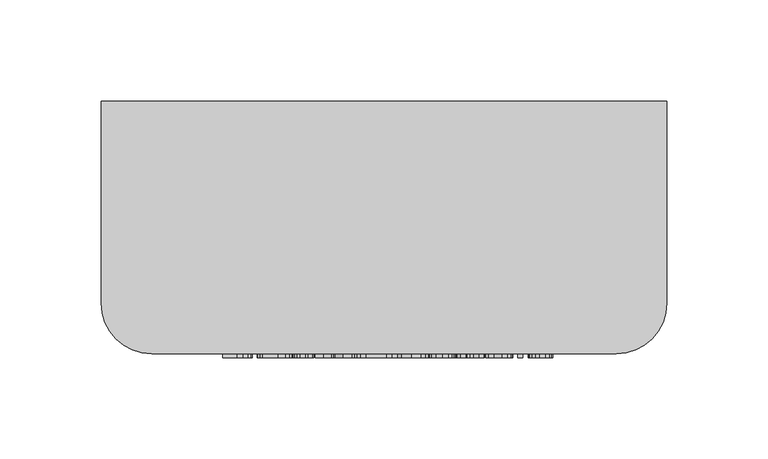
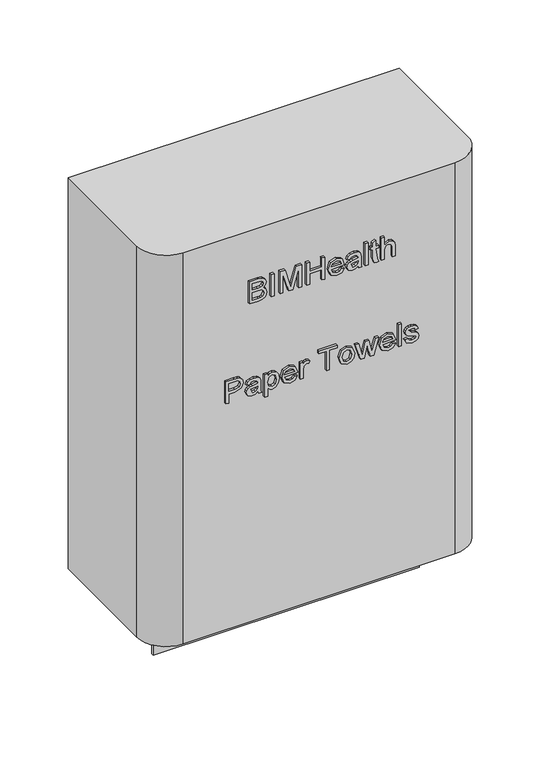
"""IFC4 building model written with IfcOpenShell, lengths in millimetres: furniture geometry, BIMHealth-Paper_Towel_Dispenser-LOD2A-v1 : BIMHealth-Paper_Towel_Dispenser-LOD2A-v1."""

from ifc_helpers import new_model, si_unit, frame, origin, place, context, project, spatial, polyline, circle_curve, outline, extrude, source, transform, mapped, element, save
from ifc_brep_helpers import plane_surface, cylinder_surface, revolved_surface, advanced_brep


def furniture_166ce8d1(model_context):
    return source(origin(), model_context, "Body", "SolidModel", [
        extrude(outline(polyline([(1486.0993641, 80.0917119), (1486.0993641, 87.5484427), (1486.4383065, 90.7046927), (1487.4383065, 92.8465196), (1489.3229218, 94.2816158), (1491.9695565, 94.8609427), (1495.0320565, 94.012385), (1496.8685949, 91.5869042), (1498.6113834, 93.5845004), (1500.9118641, 94.2455581), (1503.4310949, 93.4595004), (1505.2123449, 91.2864234), (1505.7916718, 87.606135), (1505.7916718, 80.0917119), (1486.0993641, 80.0917119)]), holes=[polyline([(1497.7916718, 82.5532504), (1503.3301334, 82.5532504), (1503.3301334, 86.7070965), (1503.0729218, 89.8705581), (1502.1234026, 91.2888273), (1500.5176334, 91.7840196), (1498.914268, 91.2527696), (1498.0032103, 89.6734427), (1497.7916718, 87.0484427), (1497.7916718, 82.5532504)]), polyline([(1488.5609026, 82.5532504), (1495.3301334, 82.5532504), (1495.3301334, 87.3609427), (1495.0008065, 90.4018081), (1493.8589795, 91.9282504), (1491.945518, 92.3994042), (1489.1931141, 90.9739234), (1488.6570565, 89.4282504), (1488.5609026, 87.6013273), (1488.5609026, 82.5532504)])]), frame((0.0, -127.0, 0.0), z_axis=(0.0, 1.0, 0.0), x_axis=(0.0, 0.0, 1.0)), (0.0, 0.0, 1.0), 2.0),
        extrude(outline(polyline([(101.0147888, -127.0), (98.5532504, -127.0), (98.5532504, -125.0), (101.0147888, -125.0), (101.0147888, -127.0)])), frame((0.0, 0.0, 1486.0993641), z_axis=(0.0, 0.0, 1.0), x_axis=(1.0, 0.0, 0.0)), (0.0, 0.0, 1.0), 19.6923077),
        extrude(outline(polyline([(1486.0993641, 105.9378658), (1486.0993641, 108.3994042), (1503.3301334, 108.3994042), (1486.0993641, 113.3513273), (1486.0993641, 116.6830581), (1503.3301334, 121.6301734), (1486.0993641, 121.6301734), (1486.0993641, 124.0917119), (1505.7916718, 124.0917119), (1505.7916718, 119.856135), (1492.1522488, 115.8945965), (1489.0128257, 115.0147888), (1491.9118641, 114.1974811), (1505.7916718, 110.1590196), (1505.7916718, 105.9378658), (1486.0993641, 105.9378658)])), frame((0.0, -127.0, 0.0), z_axis=(0.0, 1.0, 0.0), x_axis=(0.0, 0.0, 1.0)), (0.0, 0.0, 1.0), 2.0),
        extrude(outline(polyline([(1486.0993641, 128.3994042), (1486.0993641, 130.8609427), (1495.3301334, 130.8609427), (1495.3301334, 141.3224811), (1486.0993641, 141.3224811), (1486.0993641, 143.7840196), (1505.7916718, 143.7840196), (1505.7916718, 141.3224811), (1497.7916718, 141.3224811), (1497.7916718, 130.8609427), (1505.7916718, 130.8609427), (1505.7916718, 128.3994042), (1486.0993641, 128.3994042)])), frame((0.0, -127.0, 0.0), z_axis=(0.0, 1.0, 0.0), x_axis=(0.0, 0.0, 1.0)), (0.0, 0.0, 1.0), 2.0),
        extrude(outline(polyline([(1490.4070565, 157.9090196), (1488.7676334, 156.3224811), (1488.2532103, 153.9090196), (1489.3637872, 150.7383465), (1492.5609026, 149.3224811), (1493.2243641, 160.3994042), (1498.8637872, 158.5316158), (1500.8685949, 153.7215196), (1498.8589795, 148.7695965), (1493.2099411, 146.8609427), (1487.7411911, 148.7503658), (1485.7916718, 153.8609427), (1486.9214795, 158.0652696), (1490.0993641, 160.3224811), (1490.4070565, 157.9090196)]), holes=[polyline([(1495.0224411, 149.3224811), (1497.4863834, 150.6806542), (1498.4070565, 153.7119042), (1497.2532103, 156.9522888), (1495.0224411, 157.9378658), (1495.0224411, 149.3224811)])]), frame((0.0, -127.0, 0.0), z_axis=(0.0, 1.0, 0.0), x_axis=(0.0, 0.0, 1.0)), (0.0, 0.0, 1.0), 2.0),
        extrude(outline(polyline([(1487.945518, 172.0917119), (1486.0993641, 172.7070965), (1486.0993641, 175.168635), (1488.1690757, 174.6782504), (1492.445518, 174.5532504), (1495.508018, 174.5532504), (1497.6618641, 174.4330581), (1499.3325372, 173.6782504), (1500.4310949, 171.9931542), (1500.8685949, 169.0099811), (1500.3734026, 165.762385), (1498.9647488, 163.6181542), (1496.5609026, 162.5532504), (1496.2532103, 165.0147888), (1497.9334988, 166.2022888), (1498.4070565, 168.6926734), (1497.695518, 171.4138273), (1495.3301334, 172.0772888), (1494.4839795, 167.8080581), (1494.1137872, 165.6782504), (1493.3060949, 163.9546927), (1491.8926334, 162.7167119), (1489.945518, 162.2455581), (1486.9599411, 163.4931542), (1485.7916718, 167.0676734), (1486.2772488, 169.7046927), (1487.945518, 172.0917119)]), holes=[polyline([(1492.5200372, 172.0845004), (1490.2676334, 171.6878658), (1488.8421526, 170.0820965), (1488.2532103, 167.5917119), (1491.7147488, 166.0027696), (1492.1137872, 168.1205581), (1492.5200372, 172.0845004)])]), frame((0.0, -127.0, 0.0), z_axis=(0.0, 1.0, 0.0), x_axis=(0.0, 0.0, 1.0)), (0.0, 0.0, 1.0), 2.0),
        extrude(outline(polyline([(180.3994042, -127.0), (177.9378658, -127.0), (177.9378658, -125.0), (180.3994042, -125.0), (180.3994042, -127.0)])), frame((0.0, 0.0, 1486.0993641), z_axis=(0.0, 0.0, 1.0), x_axis=(1.0, 0.0, 0.0)), (0.0, 0.0, 1.0), 19.6923077),
        extrude(outline(polyline([(1489.1450372, 188.0917119), (1498.0993641, 186.8609427), (1498.0993641, 189.3224811), (1500.5609026, 189.3224811), (1500.5609026, 186.8609427), (1505.5224411, 186.8609427), (1504.0753257, 184.3994042), (1500.5609026, 184.3994042), (1500.5609026, 182.5532504), (1498.0993641, 182.5532504), (1498.0993641, 184.3994042), (1490.0657103, 184.3994042), (1486.2003257, 185.7263273), (1485.7916718, 187.7888273), (1486.0272488, 189.6301734), (1489.1450372, 188.0917119)])), frame((0.0, -127.0, 0.0), z_axis=(0.0, 1.0, 0.0), x_axis=(0.0, 0.0, 1.0)), (0.0, 0.0, 1.0), 2.0),
        extrude(outline(polyline([(1486.0993641, 191.7840196), (1486.0993641, 194.2455581), (1493.7820565, 194.2455581), (1496.3734026, 194.6470004), (1497.8589795, 195.9931542), (1498.4070565, 198.0099811), (1497.5945565, 200.231135), (1494.9984026, 201.0147888), (1486.0993641, 201.0147888), (1486.0993641, 203.4763273), (1495.2532103, 203.4763273), (1498.4887872, 202.9715196), (1500.2363834, 201.293635), (1500.8685949, 198.5292119), (1498.5512872, 194.2455581), (1505.7916718, 194.2455581), (1505.7916718, 191.7840196), (1486.0993641, 191.7840196)])), frame((0.0, -127.0, 0.0), z_axis=(0.0, 1.0, 0.0), x_axis=(0.0, 0.0, 1.0)), (0.0, 0.0, 1.0), 2.0),
        extrude(outline(polyline([(1403.5993641, 60.0917119), (1403.5993641, 62.5532504), (1411.5993641, 62.5532504), (1411.5993641, 67.5580581), (1413.3397488, 73.2768081), (1417.5945565, 74.8609427), (1420.2796526, 74.2744042), (1422.1834988, 72.7239234), (1423.1041718, 70.3320965), (1423.2916718, 67.3897888), (1423.2916718, 60.0917119), (1403.5993641, 60.0917119)]), holes=[polyline([(1414.0609026, 62.5532504), (1420.8301334, 62.5532504), (1420.8301334, 67.6445965), (1420.6618641, 70.106135), (1419.5464795, 71.7671927), (1417.508018, 72.3994042), (1414.9647488, 71.3272888), (1414.0609026, 67.7022888), (1414.0609026, 62.5532504)])]), frame((0.0, -127.0, 0.0), z_axis=(0.0, 1.0, 0.0), x_axis=(0.0, 0.0, 1.0)), (0.0, 0.0, 1.0), 2.0),
        extrude(outline(polyline([(1405.445518, 87.168635), (1403.5993641, 87.7840196), (1403.5993641, 90.2455581), (1405.6690757, 89.7551734), (1409.945518, 89.6301734), (1413.008018, 89.6301734), (1415.1618641, 89.5099811), (1416.8325372, 88.7551734), (1417.9310949, 87.0700773), (1418.3685949, 84.0869042), (1417.8734026, 80.8393081), (1416.4647488, 78.6950773), (1414.0609026, 77.6301734), (1413.7532103, 80.0917119), (1415.4334988, 81.2792119), (1415.9070565, 83.7695965), (1415.195518, 86.4907504), (1412.8301334, 87.1542119), (1411.9839795, 82.8849811), (1411.6137872, 80.7551734), (1410.8060949, 79.0316158), (1409.3926334, 77.793635), (1407.445518, 77.3224811), (1404.4599411, 78.5700773), (1403.2916718, 82.1445965), (1403.7772488, 84.7816158), (1405.445518, 87.168635)]), holes=[polyline([(1410.0200372, 87.1614234), (1407.7676334, 86.7647888), (1406.3421526, 85.1590196), (1405.7532103, 82.668635), (1409.2147488, 81.0796927), (1409.6137872, 83.1974811), (1410.0200372, 87.1614234)])]), frame((0.0, -127.0, 0.0), z_axis=(0.0, 1.0, 0.0), x_axis=(0.0, 0.0, 1.0)), (0.0, 0.0, 1.0), 2.0),
        extrude(outline(polyline([(1398.0609026, 93.0147888), (1398.0609026, 95.4763273), (1405.5224411, 95.4763273), (1403.9238834, 97.0364234), (1403.2916718, 99.1782504), (1404.2363834, 102.2912311), (1406.9527295, 104.5460388), (1410.9407103, 105.3224811), (1414.7339795, 104.6349811), (1417.4166718, 102.5965196), (1418.3685949, 99.4763273), (1417.6883065, 97.1782504), (1415.6474411, 95.4763273), (1418.0609026, 95.4763273), (1418.0609026, 93.0147888), (1398.0609026, 93.0147888)]), holes=[polyline([(1410.7147488, 95.4763273), (1414.5777295, 96.6133465), (1415.9070565, 99.2263273), (1414.6570565, 101.7888273), (1410.8974411, 102.8609427), (1407.008018, 101.762385), (1405.7532103, 99.1253658), (1406.9647488, 96.5412311), (1410.7147488, 95.4763273)])]), frame((0.0, -127.0, 0.0), z_axis=(0.0, 1.0, 0.0), x_axis=(0.0, 0.0, 1.0)), (0.0, 0.0, 1.0), 2.0),
        extrude(outline(polyline([(1407.9070565, 118.2167119), (1406.2676334, 116.6301734), (1405.7532103, 114.2167119), (1406.8637872, 111.0460388), (1410.0609026, 109.6301734), (1410.7243641, 120.7070965), (1416.3637872, 118.8393081), (1418.3685949, 114.0292119), (1416.3589795, 109.0772888), (1410.7099411, 107.168635), (1405.2411911, 109.0580581), (1403.2916718, 114.168635), (1404.4214795, 118.3729619), (1407.5993641, 120.6301734), (1407.9070565, 118.2167119)]), holes=[polyline([(1412.5224411, 109.6301734), (1414.9863834, 110.9883465), (1415.9070565, 114.0195965), (1414.7532103, 117.2599811), (1412.5224411, 118.2455581), (1412.5224411, 109.6301734)])]), frame((0.0, -127.0, 0.0), z_axis=(0.0, 1.0, 0.0), x_axis=(0.0, 0.0, 1.0)), (0.0, 0.0, 1.0), 2.0),
        extrude(outline(polyline([(1403.5993641, 123.168635), (1403.5993641, 125.6301734), (1411.2003257, 125.6301734), (1414.0753257, 126.0292119), (1415.9070565, 128.3080581), (1415.4022488, 130.0388273), (1417.6089795, 130.8609427), (1418.3685949, 128.3897888), (1417.8926334, 126.8513273), (1415.9214795, 125.3224811), (1418.0609026, 125.3224811), (1418.0609026, 123.168635), (1403.5993641, 123.168635)])), frame((0.0, -127.0, 0.0), z_axis=(0.0, 1.0, 0.0), x_axis=(0.0, 0.0, 1.0)), (0.0, 0.0, 1.0), 2.0),
        extrude(outline(polyline([(1403.5993641, 145.3224811), (1403.5993641, 147.7840196), (1420.8301334, 147.7840196), (1420.8301334, 154.2455581), (1423.2916718, 154.2455581), (1423.2916718, 138.8609427), (1420.8301334, 138.8609427), (1420.8301334, 145.3224811), (1403.5993641, 145.3224811)])), frame((0.0, -127.0, 0.0), z_axis=(0.0, 1.0, 0.0), x_axis=(0.0, 0.0, 1.0)), (0.0, 0.0, 1.0), 2.0),
        extrude(outline(polyline([(1410.8301334, 156.0917119), (1405.2339795, 157.8777696), (1403.2916718, 162.5580581), (1404.1738834, 165.8921927), (1406.6522488, 168.2167119), (1411.0320565, 169.0147888), (1416.4190757, 167.2095004), (1418.3685949, 162.5580581), (1416.7676334, 158.2215196), (1410.8301334, 156.0917119)]), holes=[polyline([(1410.8349411, 158.5532504), (1414.6450372, 159.6926734), (1415.9070565, 162.5580581), (1414.6402295, 165.4066158), (1410.9118641, 166.5532504), (1407.0272488, 165.4138273), (1405.7532103, 162.5580581), (1407.0200372, 159.6926734), (1410.8349411, 158.5532504)])]), frame((0.0, -127.0, 0.0), z_axis=(0.0, 1.0, 0.0), x_axis=(0.0, 0.0, 1.0)), (0.0, 0.0, 1.0), 2.0),
        extrude(outline(polyline([(1403.5993641, 174.2022888), (1403.5993641, 177.1926734), (1414.7243641, 179.6301734), (1412.0801334, 180.1782504), (1403.5993641, 182.0724811), (1403.5993641, 185.043635), (1418.0609026, 189.4763273), (1418.0609026, 186.9090196), (1409.6810949, 184.4090196), (1406.9070565, 183.6301734), (1409.5368641, 183.0869042), (1418.0609026, 181.1013273), (1418.0609026, 178.1782504), (1409.5128257, 176.1926734), (1406.6089795, 175.5820965), (1409.6234026, 174.8369042), (1418.0609026, 172.3369042), (1418.0609026, 169.7840196), (1403.5993641, 174.2022888)])), frame((0.0, -127.0, 0.0), z_axis=(0.0, 1.0, 0.0), x_axis=(0.0, 0.0, 1.0)), (0.0, 0.0, 1.0), 2.0),
        extrude(outline(polyline([(1407.9070565, 201.293635), (1406.2676334, 199.7070965), (1405.7532103, 197.293635), (1406.8637872, 194.1229619), (1410.0609026, 192.7070965), (1410.7243641, 203.7840196), (1416.3637872, 201.9162311), (1418.3685949, 197.106135), (1416.3589795, 192.1542119), (1410.7099411, 190.2455581), (1405.2411911, 192.1349811), (1403.2916718, 197.2455581), (1404.4214795, 201.449885), (1407.5993641, 203.7070965), (1407.9070565, 201.293635)]), holes=[polyline([(1412.5224411, 192.7070965), (1414.9863834, 194.0652696), (1415.9070565, 197.0965196), (1414.7532103, 200.3369042), (1412.5224411, 201.3224811), (1412.5224411, 192.7070965)])]), frame((0.0, -127.0, 0.0), z_axis=(0.0, 1.0, 0.0), x_axis=(0.0, 0.0, 1.0)), (0.0, 0.0, 1.0), 2.0),
        extrude(outline(polyline([(208.7070965, -127.0), (206.2455581, -127.0), (206.2455581, -125.0), (208.7070965, -125.0), (208.7070965, -127.0)])), frame((0.0, 0.0, 1403.5993641), z_axis=(0.0, 0.0, 1.0), x_axis=(1.0, 0.0, 0.0)), (0.0, 0.0, 1.0), 19.6923077),
        extrude(outline(polyline([(1407.9070565, 211.4763273), (1404.4551334, 213.3609427), (1403.2916718, 217.6542119), (1403.8950372, 220.7022888), (1405.6041718, 222.762385), (1407.9599411, 223.4763273), (1410.0993641, 222.8681542), (1411.4118641, 221.1902696), (1412.570518, 217.5772888), (1415.4407103, 214.9522888), (1415.9070565, 217.3080581), (1415.4190757, 219.4739234), (1414.0609026, 220.3994042), (1414.3685949, 222.8609427), (1416.5777295, 222.0147888), (1417.8854218, 220.1109427), (1418.3685949, 217.1157504), (1418.0681141, 214.9979619), (1417.3397488, 213.4330581), (1415.9383065, 212.2263273), (1414.1041718, 211.7840196), (1412.1185949, 212.3345004), (1410.7123449, 213.9522888), (1409.508018, 217.6590196), (1407.7003257, 221.0147888), (1406.3349411, 220.1974811), (1405.7532103, 217.6878658), (1406.3878257, 215.0772888), (1408.2147488, 213.9378658), (1407.9070565, 211.4763273)])), frame((0.0, -127.0, 0.0), z_axis=(0.0, 1.0, 0.0), x_axis=(0.0, 0.0, 1.0)), (0.0, 0.0, 1.0), 2.0),
        extrude(outline(polyline([(252.5, -75.0), (252.5, -77.0), (27.5, -77.0), (27.5, -75.0), (252.5, -75.0)])), frame((0.0, 0.0, 1160.0), z_axis=(0.0, 0.0, 1.0), x_axis=(1.0, 0.0, 0.0)), (0.0, 0.0, 1.0), 40.0),
        advanced_brep(
        [(255.0, -125.0, 1550.0), (280.0, -100.0, 1550.0), (280.0, 0.0, 1550.0), (0.0, 0.0, 1550.0), (0.0, -100.0, 1550.0), (25.0, -125.0, 1550.0), (255.0, -125.0, 1200.0), (25.0, -125.0, 1200.0), (0.0, -100.0, 1200.0), (0.0, 0.0, 1200.0), (280.0, 0.0, 1200.0), (280.0, -100.0, 1200.0), (260.0, -70.0, 1200.0), (20.0, -70.0, 1200.0), (20.0, -80.0, 1200.0), (260.0, -80.0, 1200.0), (280.0, -100.0, 1545.0), (280.0, -100.0, 1205.0), (280.0, 0.0, 1205.0), (280.0, 0.0, 1545.0), (0.0, 0.0, 1545.0), (0.0, 0.0, 1205.0), (0.0, -100.0, 1205.0), (0.0, -100.0, 1545.0), (25.0, -125.0, 1545.0), (25.0, -125.0, 1205.0), (255.0, -125.0, 1205.0), (255.0, -125.0, 1545.0), (275.0, -5.0, 1545.0), (5.0, -5.0, 1545.0), (5.0, -5.0, 1205.0), (275.0, -5.0, 1205.0), (275.0, -100.0, 1545.0), (275.0, -100.0, 1205.0), (255.0, -120.0, 1545.0), (255.0, -120.0, 1205.0), (25.0, -120.0, 1545.0), (25.0, -120.0, 1205.0), (5.0, -100.0, 1545.0), (5.0, -100.0, 1205.0), (260.0, -70.0, 1205.0), (260.0, -80.0, 1205.0), (20.0, -80.0, 1205.0), (20.0, -70.0, 1205.0)],
        [
            (0, 1, circle_curve(frame((255.0, -100.0, 1550.0), z_axis=(0.0, 0.0, 1.0), x_axis=(-1.0, 0.0, 0.0)), 25.0)),
            (1, 2),
            (2, 3),
            (3, 4),
            (4, 5, circle_curve(frame((25.0, -100.0, 1550.0), z_axis=(0.0, 0.0, 1.0), x_axis=(1.0, 0.0, 0.0)), 25.0)),
            (5, 0),
            (6, 7),
            (7, 8, circle_curve(frame((25.0, -100.0, 1200.0), z_axis=(0.0, 0.0, -1.0), x_axis=(1.0, 0.0, 0.0)), 25.0)),
            (8, 9),
            (9, 10),
            (10, 11),
            (11, 6, circle_curve(frame((255.0, -100.0, 1200.0), z_axis=(0.0, 0.0, -1.0), x_axis=(-1.0, 0.0, 0.0)), 25.0)),
            (12, 13),
            (13, 14),
            (14, 15),
            (15, 12),
            (1, 16),
            (16, 17),
            (17, 11),
            (10, 18),
            (18, 19),
            (19, 2),
            (3, 20),
            (20, 21),
            (21, 9),
            (8, 22),
            (22, 23),
            (23, 4),
            (5, 24),
            (24, 25),
            (25, 7),
            (6, 26),
            (26, 27),
            (27, 0),
            (28, 29),
            (29, 30),
            (30, 31),
            (31, 28),
            (32, 28),
            (31, 33),
            (33, 32),
            (34, 32, circle_curve(frame((255.0, -100.0, 1545.0), z_axis=(0.0, 0.0, 1.0), x_axis=(-1.0, 0.0, 0.0)), 20.0)),
            (33, 35, circle_curve(frame((255.0, -100.0, 1205.0), z_axis=(0.0, 0.0, -1.0), x_axis=(-1.0, 0.0, 0.0)), 20.0)),
            (35, 34),
            (36, 34),
            (35, 37),
            (37, 36),
            (38, 36, circle_curve(frame((25.0, -100.0, 1545.0), z_axis=(0.0, 0.0, 1.0), x_axis=(1.0, 0.0, 0.0)), 20.0)),
            (37, 39, circle_curve(frame((25.0, -100.0, 1205.0), z_axis=(0.0, 0.0, -1.0), x_axis=(1.0, 0.0, 0.0)), 20.0)),
            (39, 38),
            (29, 38),
            (39, 30),
            (40, 41),
            (41, 42),
            (42, 43),
            (43, 40),
            (40, 12),
            (15, 41),
            (14, 42),
            (13, 43),
        ],
        [
            plane_surface(frame((230.0, -100.0, 1550.0), z_axis=(0.0, 0.0, 1.0), x_axis=(0.0, -1.0, 0.0))),
            plane_surface(frame((230.0, -100.0, 1200.0), z_axis=(0.0, 0.0, -1.0), x_axis=(0.0, 1.0, 0.0))),
            plane_surface(frame((280.0, -100.0, 1550.0), z_axis=(1.0, 0.0, 0.0), x_axis=(0.0, 0.0, -1.0))),
            plane_surface(frame((0.0, -75.0, 1550.0), z_axis=(-1.0, 0.0, 0.0), x_axis=(0.0, 0.0, -1.0))),
            plane_surface(frame((25.0, -125.0, 1550.0), z_axis=(0.0, -1.0, 0.0), x_axis=(0.0, 0.0, -1.0))),
            cylinder_surface(frame((255.0, -100.0, 1200.0), z_axis=(0.0, 0.0, 1.0), x_axis=(-1.0, 0.0, 0.0)), 25.0),
            cylinder_surface(frame((25.0, -100.0, 1200.0), z_axis=(0.0, 0.0, 1.0), x_axis=(1.0, 0.0, 0.0)), 25.0),
            plane_surface(frame((280.0, 0.0, 1550.0), z_axis=(0.0, 1.0, 0.0), x_axis=(0.0, 0.0, -1.0))),
            plane_surface(frame((5.0, -5.0, 1550.0), z_axis=(0.0, -1.0, 0.0), x_axis=(0.0, 0.0, -1.0))),
            plane_surface(frame((275.0, -75.0, 1550.0), z_axis=(-1.0, 0.0, 0.0), x_axis=(0.0, 0.0, -1.0))),
            revolved_surface(polyline([(235.0, -100.0, 1205.0), (235.0, -100.0, 1545.0)]), (255.0, -100.0, 1200.0), (0.0, 0.0, -1.0)),
            plane_surface(frame((255.0, -120.0, 1550.0), z_axis=(0.0, 1.0, 0.0), x_axis=(0.0, 0.0, -1.0))),
            revolved_surface(polyline([(45.0, -100.0, 1205.0), (45.0, -100.0, 1545.0)]), (25.0, -100.0, 1200.0), (0.0, 0.0, -1.0)),
            plane_surface(frame((5.0, -100.0, 1550.0), z_axis=(1.0, 0.0, 0.0), x_axis=(0.0, 0.0, -1.0))),
            plane_surface(frame((0.0, 0.0, 1545.0), z_axis=(0.0, 0.0, -1.0), x_axis=(1.0, 0.0, 0.0))),
            plane_surface(frame((-55.0, 0.0, 1205.0), z_axis=(0.0, 0.0, 1.0), x_axis=(-1.0, 0.0, 0.0))),
            plane_surface(frame((260.0, -70.0, 1205.0), z_axis=(-1.0, 0.0, 0.0), x_axis=(0.0, 0.0, -1.0))),
            plane_surface(frame((260.0, -80.0, 1205.0), z_axis=(0.0, 1.0, 0.0), x_axis=(0.0, 0.0, -1.0))),
            plane_surface(frame((20.0, -80.0, 1205.0), z_axis=(1.0, 0.0, 0.0), x_axis=(0.0, 0.0, -1.0))),
            plane_surface(frame((20.0, -70.0, 1205.0), z_axis=(0.0, -1.0, 0.0), x_axis=(0.0, 0.0, -1.0))),
        ],
        [
            (0, [[1, 2, 3, 4, 5, 6]]),
            (1, [[7, 8, 9, 10, 11, 12], [13, 14, 15, 16]]),
            (2, [[17, 18, 19, -11, 20, 21, 22, -2]]),
            (3, [[-4, 23, 24, 25, -9, 26, 27, 28]]),
            (4, [[-6, 29, 30, 31, -7, 32, 33, 34]]),
            (5, [[-1, -34, -33, -32, -12, -19, -18, -17]]),
            (6, [[-5, -28, -27, -26, -8, -31, -30, -29]]),
            (7, [[-3, -22, -21, -20, -10, -25, -24, -23]]),
            (8, [[35, 36, 37, 38]]),
            (9, [[39, -38, 40, 41]]),
            (10, [[42, -41, 43, 44]]),
            (11, [[45, -44, 46, 47]]),
            (12, [[48, -47, 49, 50]]),
            (13, [[51, -50, 52, -36]]),
            (14, [[-39, -42, -45, -48, -51, -35]]),
            (15, [[-40, -37, -52, -49, -46, -43], [53, 54, 55, 56]]),
            (16, [[-53, 57, -16, 58]]),
            (17, [[-54, -58, -15, 59]]),
            (18, [[-55, -59, -14, 60]]),
            (19, [[-56, -60, -13, -57]]),
        ],
    ),
    ])


if __name__ == "__main__":
    model = new_model("IFC4")
    model_context = context("Model", 3, world=origin())
    ifc_project = project(units=[si_unit("LENGTHUNIT", "METRE", prefix="MILLI")], contexts=[model_context])
    site = spatial("IfcSite", under=ifc_project)
    building = spatial("IfcBuilding", under=site)
    placement = place(None, origin())
    furniture_shape = furniture_166ce8d1(model_context)
    element("IfcFurniture", 1, ObjectType="BIMHealth-Paper_Towel_Dispenser-LOD2A-v1 : BIMHealth-Paper_Towel_Dispenser-LOD2A-v1", at=placement, inside=building, context=model_context, shape_type="MappedRepresentation", body=[
        mapped(furniture_shape, transform((0.0, 0.0, 0.0), x_axis=(1.0, 0.0, 0.0), y_axis=(0.0, 1.0, 0.0), z_axis=(0.0, 0.0, 1.0))),
    ])
    save(model, "model.ifc")
